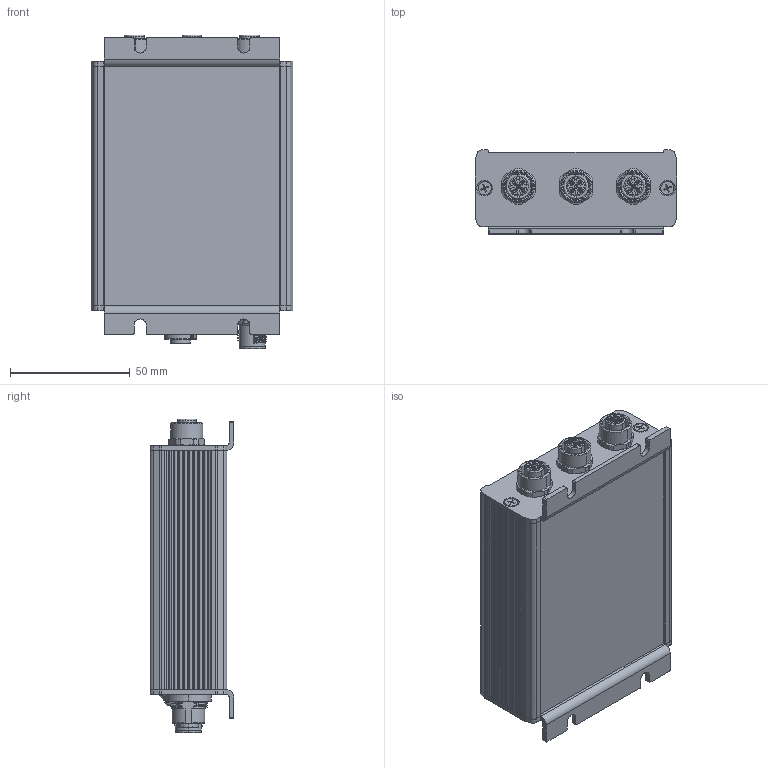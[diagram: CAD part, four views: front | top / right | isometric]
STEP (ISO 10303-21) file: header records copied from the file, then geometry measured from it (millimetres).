
FILE_DESCRIPTION (( 'STEP AP203' ), '1' );
FILE_NAME ('GSV-6CAN.STEP', '2024-07-08T10:03:56', ( '' ), ( '' ), 'SwSTEP 2.0', 'SolidWorks 2022', '' );
FILE_SCHEMA (( 'CONFIG_CONTROL_DESIGN' ));
Length unit declared in the file: millimetre
Products named in the file (28): USBC_Stecker_Render; GSV-6CAN; m_und_f_Can_Stecker; 629722000214_Pin2_Bottom_mir; 629722000214_Pin1_Bottom; 629722000214_Pin4_Bottom; 629722000214_Pin4_Bottom_mir; 629722000214_Pin3_Bottom_mir; 629722000214_Pin2_Top; 629722000214_Pin3_Top; 629722000214_Pin1_Bottom_mir; 629722000214_Shielding2; E-2024-0025-00632; 629722000214_Pin3_Top_mir; M12_5p_f_angles_dipsolder; 629722000214_Pin1_Top; 629722000214_Pin1_Top_mir; 629722000214_Pin3_Bottom; 629722000214_Housing; 629722000214_Pin4_Top; 629722000214_Pin2_Bottom; 629722000214_Pin2_Top_mir; DIN_EN_ISO_7046-1_H_M3_x_10_-_4.8_-_H_1; E-2024-0025-00634; LED_läuchte_Render; 629722000214_Shielding; Schraube_für_GSV5_Render; E-2024-0025-00633
Assembly tree (33 placements, depth 3):
  GSV-6CAN
    E-2024-0025-00632
    E-2024-0025-00633
    E-2024-0025-00634
    M12_5p_f_angles_dipsolder  x3
    USBC_Stecker_Render
      629722000214_Housing
      629722000214_Pin1_Top
      629722000214_Pin4_Bottom
      629722000214_Pin4_Top  x2
      629722000214_Pin1_Bottom
      629722000214_Pin3_Bottom
      629722000214_Pin3_Top
      629722000214_Pin2_Top
      629722000214_Pin2_Bottom
      629722000214_Pin1_Top_mir
      629722000214_Pin1_Bottom_mir
      629722000214_Pin2_Top_mir
      629722000214_Pin2_Bottom_mir
      629722000214_Pin3_Top_mir
      629722000214_Pin3_Bottom_mir
      629722000214_Pin4_Bottom_mir
      629722000214_Shielding2
      629722000214_Shielding
    m_und_f_Can_Stecker
    Schraube_für_GSV5_Render  x4
      DIN_EN_ISO_7046-1_H_M3_x_10_-_4.8_-_H_1
    LED_läuchte_Render
Bounding box: 84.3 x 35 x 131 mm (x, y, z)
Volume: 68440.2 mm3; surface area: 80217.9 mm2
Topology: 32 solids, 32 shells, 3847 faces, 10499 edges, 6787 vertices
Faces by surface type: plane 1833, cylinder 1120, bspline 379, cone 347, torus 128, sphere 40
Entity records: 118089 total; most frequent: CARTESIAN_POINT 42656, ORIENTED_EDGE 16044, DIRECTION 13782, EDGE_CURVE 8022, VERTEX_POINT 5263, LINE 4734, VECTOR 4734, AXIS2_PLACEMENT_3D 4524
